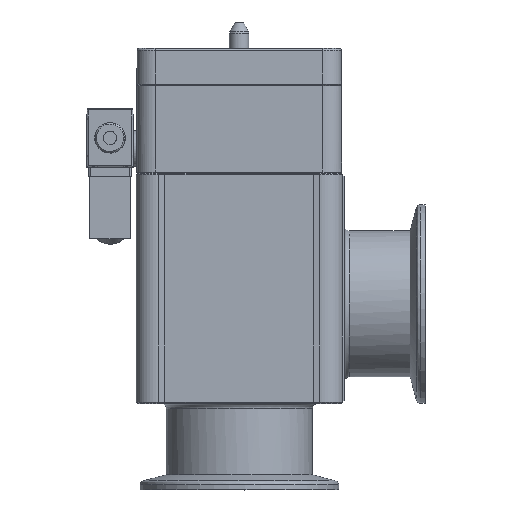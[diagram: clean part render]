
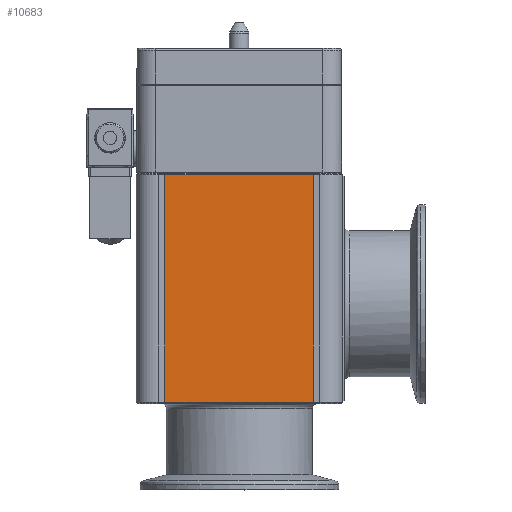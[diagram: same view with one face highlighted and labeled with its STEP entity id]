
A CAD part, top view. The second image highlights one B-rep face of the part: STEP entity #10683.
In plain terms, the highlighted free-form (B-spline) face has degree [1, 1] with [2, 2] control points.
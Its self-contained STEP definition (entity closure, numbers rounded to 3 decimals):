
#6916=CARTESIAN_POINT('V148',(27.938,0.4,
   38.5));
#6917=VERTEX_POINT('V148',#6916);
#6960=CARTESIAN_POINT('V146',(-27.938,0.4,
   38.5));
#6961=VERTEX_POINT('V146',#6960);
#6967=CARTESIAN_POINT('E251',(-27.938,0.4,
   38.5));
#6968=CARTESIAN_POINT('E251',(27.938,0.4,
   38.5));
#6969=B_SPLINE_CURVE_WITH_KNOTS('E251',1,(#6967,#6968),
   .POLYLINE_FORM.,.F.,.U.,(2,2),(2.0,100.775),
   .UNSPECIFIED.);
#6970=EDGE_CURVE('E251',#6961,#6917,#6969,.T.);
#7940=CARTESIAN_POINT('V96',(-27.938,86.1,
   38.5));
#7941=VERTEX_POINT('V96',#7940);
#7984=CARTESIAN_POINT('V94',(27.938,86.1,
   38.5));
#7985=VERTEX_POINT('V94',#7984);
#7991=CARTESIAN_POINT('E153',(27.938,86.1,
   38.5));
#7992=CARTESIAN_POINT('E153',(-27.938,86.1,
   38.5));
#7993=B_SPLINE_CURVE_WITH_KNOTS('E153',1,(#7991,#7992),
   .POLYLINE_FORM.,.F.,.U.,(2,2),(2.0,100.775),
   .UNSPECIFIED.);
#7994=EDGE_CURVE('E153',#7985,#7941,#7993,.T.);
#10660=CARTESIAN_POINT('E49',(-27.938,0.4,
   38.5));
#10661=CARTESIAN_POINT('E49',(-27.938,86.1,
   38.5));
#10662=B_SPLINE_CURVE_WITH_KNOTS('E49',1,(#10660,#10661),
   .POLYLINE_FORM.,.F.,.U.,(2,2),(0.17,
   36.514),.UNSPECIFIED.);
#10663=EDGE_CURVE('E49',#6961,#7941,#10662,.T.);
#10668=CARTESIAN_POINT('F17',(-27.938,0.0,
   38.5));
#10669=CARTESIAN_POINT('F17',(27.938,0.0,
   38.5));
#10670=CARTESIAN_POINT('F17',(-27.938,90.0,
   38.5));
#10671=CARTESIAN_POINT('F17',(27.938,90.0,
   38.5));
#10672=B_SPLINE_SURFACE_WITH_KNOTS('F17',1,1,((#10668,#10670),(
   #10669,#10671)),.PLANE_SURF.,.F.,.F.,.U.,(2,2),(2,2),(0.0,1.0),
   (0.0,1.611),.UNSPECIFIED.);
#10673=ORIENTED_EDGE('E251',*,*,#6970,.F.);
#10674=ORIENTED_EDGE('F16',*,*,#10663,.T.);
#10675=ORIENTED_EDGE('E153',*,*,#7994,.F.);
#10676=CARTESIAN_POINT('E52',(27.938,0.4,
   38.5));
#10677=CARTESIAN_POINT('E52',(27.938,86.1,
   38.5));
#10678=B_SPLINE_CURVE_WITH_KNOTS('E52',1,(#10676,#10677),
   .POLYLINE_FORM.,.F.,.U.,(2,2),(0.007,
   1.541),.UNSPECIFIED.);
#10679=EDGE_CURVE('E52',#6917,#7985,#10678,.T.);
#10680=ORIENTED_EDGE('E52',*,*,#10679,.F.);
#10681=EDGE_LOOP('F17',(#10673,#10674,#10675,#10680));
#10682=FACE_OUTER_BOUND('F17',#10681,.F.);
#10683=ADVANCED_FACE('F17',(#10682),#10672,.T.);
